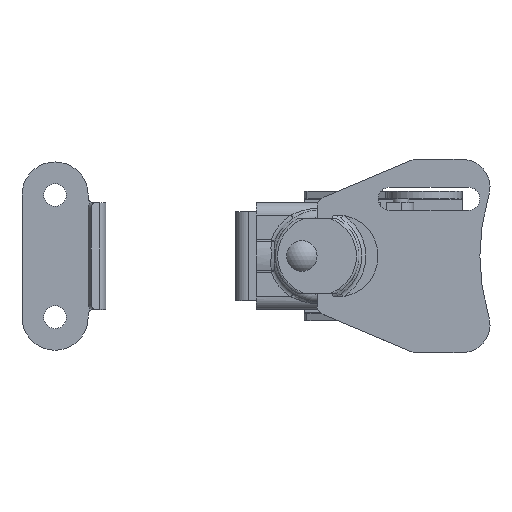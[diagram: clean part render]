
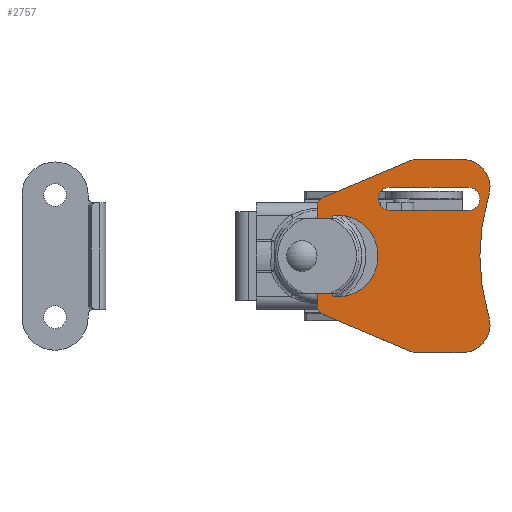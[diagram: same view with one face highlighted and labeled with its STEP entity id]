
A CAD part, top view. The second image highlights one B-rep face of the part: STEP entity #2757.
In plain terms, the highlighted planar face has unit normal (0, 0, 1).
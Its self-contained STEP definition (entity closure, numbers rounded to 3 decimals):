
#177=PLANE('',#3032);
#329=LINE('',#4992,#536);
#342=LINE('',#5044,#549);
#348=LINE('',#5059,#555);
#350=LINE('',#5065,#557);
#353=LINE('',#5076,#560);
#356=LINE('',#5083,#563);
#357=LINE('',#5086,#564);
#362=LINE('',#5101,#569);
#536=VECTOR('',#3633,15.085);
#549=VECTOR('',#3680,18.884);
#555=VECTOR('',#3696,18.884);
#557=VECTOR('',#3704,19.344);
#560=VECTOR('',#3717,15.5);
#563=VECTOR('',#3726,15.5);
#564=VECTOR('',#3729,9.096);
#569=VECTOR('',#3748,9.096);
#624=FACE_BOUND('',#958,.T.);
#625=FACE_BOUND('',#959,.T.);
#775=FACE_OUTER_BOUND('',#957,.T.);
#957=EDGE_LOOP('',(#2406,#2407,#2408,#2409,#2410,#2411,#2412,#2413,#2414,
#2415,#2416,#2417));
#958=EDGE_LOOP('',(#2418,#2419,#2420,#2421));
#959=EDGE_LOOP('',(#2422,#2423,#2424,#2425));
#1094=CIRCLE('',#2988,0.5);
#1097=CIRCLE('',#2993,0.5);
#1099=CIRCLE('',#2996,2.);
#1109=CIRCLE('',#3009,2.);
#1110=CIRCLE('',#3011,2.);
#1111=CIRCLE('',#3014,2.);
#1112=CIRCLE('',#3017,8.056);
#1113=CIRCLE('',#3019,2.25);
#1114=CIRCLE('',#3022,2.25);
#1115=CIRCLE('',#3026,5.5);
#1116=CIRCLE('',#3028,41.062);
#1117=CIRCLE('',#3030,5.5);
#1312=VERTEX_POINT('',#4982);
#1313=VERTEX_POINT('',#4983);
#1316=VERTEX_POINT('',#4991);
#1319=VERTEX_POINT('',#4999);
#1322=VERTEX_POINT('',#5006);
#1323=VERTEX_POINT('',#5008);
#1338=VERTEX_POINT('',#5043);
#1339=VERTEX_POINT('',#5047);
#1340=VERTEX_POINT('',#5051);
#1341=VERTEX_POINT('',#5053);
#1342=VERTEX_POINT('',#5057);
#1343=VERTEX_POINT('',#5061);
#1344=VERTEX_POINT('',#5069);
#1345=VERTEX_POINT('',#5070);
#1346=VERTEX_POINT('',#5075);
#1347=VERTEX_POINT('',#5079);
#1348=VERTEX_POINT('',#5085);
#1349=VERTEX_POINT('',#5089);
#1350=VERTEX_POINT('',#5093);
#1351=VERTEX_POINT('',#5097);
#1660=EDGE_CURVE('',#1312,#1313,#1094,.T.);
#1664=EDGE_CURVE('',#1316,#1313,#329,.T.);
#1668=EDGE_CURVE('',#1316,#1319,#1097,.T.);
#1672=EDGE_CURVE('',#1322,#1323,#1099,.T.);
#1690=EDGE_CURVE('',#1323,#1338,#342,.T.);
#1692=EDGE_CURVE('',#1338,#1339,#1109,.T.);
#1695=EDGE_CURVE('',#1340,#1341,#1110,.T.);
#1698=EDGE_CURVE('',#1342,#1340,#348,.T.);
#1700=EDGE_CURVE('',#1343,#1342,#1111,.T.);
#1701=EDGE_CURVE('',#1339,#1343,#350,.T.);
#1702=EDGE_CURVE('',#1312,#1319,#1112,.T.);
#1703=EDGE_CURVE('',#1344,#1345,#1113,.T.);
#1706=EDGE_CURVE('',#1345,#1346,#353,.T.);
#1708=EDGE_CURVE('',#1346,#1347,#1114,.T.);
#1710=EDGE_CURVE('',#1347,#1344,#356,.T.);
#1711=EDGE_CURVE('',#1341,#1348,#357,.T.);
#1713=EDGE_CURVE('',#1348,#1349,#1115,.T.);
#1715=EDGE_CURVE('',#1349,#1350,#1116,.T.);
#1717=EDGE_CURVE('',#1350,#1351,#1117,.T.);
#1719=EDGE_CURVE('',#1351,#1322,#362,.T.);
#2406=ORIENTED_EDGE('',*,*,#1672,.F.);
#2407=ORIENTED_EDGE('',*,*,#1719,.F.);
#2408=ORIENTED_EDGE('',*,*,#1717,.F.);
#2409=ORIENTED_EDGE('',*,*,#1715,.F.);
#2410=ORIENTED_EDGE('',*,*,#1713,.F.);
#2411=ORIENTED_EDGE('',*,*,#1711,.F.);
#2412=ORIENTED_EDGE('',*,*,#1695,.F.);
#2413=ORIENTED_EDGE('',*,*,#1698,.F.);
#2414=ORIENTED_EDGE('',*,*,#1700,.F.);
#2415=ORIENTED_EDGE('',*,*,#1701,.F.);
#2416=ORIENTED_EDGE('',*,*,#1692,.F.);
#2417=ORIENTED_EDGE('',*,*,#1690,.F.);
#2418=ORIENTED_EDGE('',*,*,#1702,.T.);
#2419=ORIENTED_EDGE('',*,*,#1668,.F.);
#2420=ORIENTED_EDGE('',*,*,#1664,.T.);
#2421=ORIENTED_EDGE('',*,*,#1660,.F.);
#2422=ORIENTED_EDGE('',*,*,#1703,.T.);
#2423=ORIENTED_EDGE('',*,*,#1706,.T.);
#2424=ORIENTED_EDGE('',*,*,#1708,.T.);
#2425=ORIENTED_EDGE('',*,*,#1710,.T.);
#2757=ADVANCED_FACE('',(#775,#624,#625),#177,.T.);
#2988=AXIS2_PLACEMENT_3D('',#4984,#3625,#3626);
#2993=AXIS2_PLACEMENT_3D('',#5000,#3640,#3641);
#2996=AXIS2_PLACEMENT_3D('',#5009,#3648,#3649);
#3009=AXIS2_PLACEMENT_3D('',#5048,#3684,#3685);
#3011=AXIS2_PLACEMENT_3D('',#5054,#3690,#3691);
#3014=AXIS2_PLACEMENT_3D('',#5063,#3700,#3701);
#3017=AXIS2_PLACEMENT_3D('',#5067,#3707,#3708);
#3019=AXIS2_PLACEMENT_3D('',#5071,#3711,#3712);
#3022=AXIS2_PLACEMENT_3D('',#5080,#3721,#3722);
#3026=AXIS2_PLACEMENT_3D('',#5090,#3733,#3734);
#3028=AXIS2_PLACEMENT_3D('',#5094,#3738,#3739);
#3030=AXIS2_PLACEMENT_3D('',#5098,#3743,#3744);
#3032=AXIS2_PLACEMENT_3D('',#5102,#3749,#3750);
#3625=DIRECTION('center_axis',(0.,0.,1.));
#3626=DIRECTION('ref_axis',(0.686,0.728,0.));
#3633=DIRECTION('',(1.,0.,0.));
#3640=DIRECTION('center_axis',(0.,0.,1.));
#3641=DIRECTION('ref_axis',(-0.686,0.728,0.));
#3648=DIRECTION('center_axis',(0.,0.,-1.));
#3649=DIRECTION('ref_axis',(-0.98,0.198,0.));
#3680=DIRECTION('',(0.388,0.922,0.));
#3684=DIRECTION('center_axis',(0.,0.,-1.));
#3685=DIRECTION('ref_axis',(-0.553,0.833,0.));
#3690=DIRECTION('center_axis',(0.,0.,-1.));
#3691=DIRECTION('ref_axis',(0.98,0.198,0.));
#3696=DIRECTION('',(0.388,-0.922,0.));
#3700=DIRECTION('center_axis',(0.,0.,-1.));
#3701=DIRECTION('ref_axis',(0.553,0.833,0.));
#3704=DIRECTION('',(1.,0.,0.));
#3707=DIRECTION('center_axis',(0.,0.,-1.));
#3708=DIRECTION('ref_axis',(0.993,-0.117,0.));
#3711=DIRECTION('center_axis',(0.,0.,-1.));
#3712=DIRECTION('ref_axis',(1.,0.,0.));
#3717=DIRECTION('',(0.,-1.,0.));
#3721=DIRECTION('center_axis',(0.,0.,-1.));
#3722=DIRECTION('ref_axis',(-1.,0.,0.));
#3726=DIRECTION('',(0.,1.,0.));
#3729=DIRECTION('',(0.,-1.,0.));
#3733=DIRECTION('center_axis',(0.,0.,-1.));
#3734=DIRECTION('ref_axis',(0.29,0.957,0.));
#3738=DIRECTION('center_axis',(0.,0.,1.));
#3739=DIRECTION('ref_axis',(0.29,0.957,0.));
#3743=DIRECTION('center_axis',(0.,0.,-1.));
#3744=DIRECTION('ref_axis',(1.,0.,0.));
#3748=DIRECTION('',(0.,1.,0.));
#3749=DIRECTION('center_axis',(0.,0.,1.));
#3750=DIRECTION('ref_axis',(1.,0.,0.));
#4982=CARTESIAN_POINT('',(8.042,-3.471,1.));
#4983=CARTESIAN_POINT('',(7.542,-3.,1.));
#4984=CARTESIAN_POINT('Origin',(7.542,-3.5,1.));
#4991=CARTESIAN_POINT('',(-7.542,-3.,1.));
#4992=CARTESIAN_POINT('',(-4.,-3.,1.));
#4999=CARTESIAN_POINT('',(-8.042,-3.471,1.));
#5000=CARTESIAN_POINT('Origin',(-7.542,-3.5,1.));
#5006=CARTESIAN_POINT('',(-19.,-19.404,1.));
#5008=CARTESIAN_POINT('',(-18.843,-18.628,1.));
#5009=CARTESIAN_POINT('Origin',(-17.,-19.404,1.));
#5043=CARTESIAN_POINT('',(-11.515,-1.224,1.));
#5044=CARTESIAN_POINT('',(-19.,-19.,1.));
#5047=CARTESIAN_POINT('',(-9.672,0.,1.));
#5048=CARTESIAN_POINT('Origin',(-9.672,-2.,1.));
#5051=CARTESIAN_POINT('',(18.843,-18.628,1.));
#5053=CARTESIAN_POINT('',(19.,-19.404,1.));
#5054=CARTESIAN_POINT('Origin',(17.,-19.404,1.));
#5057=CARTESIAN_POINT('',(11.515,-1.224,1.));
#5059=CARTESIAN_POINT('',(11.,0.,1.));
#5061=CARTESIAN_POINT('',(9.672,0.,1.));
#5063=CARTESIAN_POINT('Origin',(9.672,-2.,1.));
#5065=CARTESIAN_POINT('',(-11.,0.,1.));
#5067=CARTESIAN_POINT('Origin',(0.,-3.944,1.));
#5069=CARTESIAN_POINT('',(9.,-14.25,1.));
#5070=CARTESIAN_POINT('',(13.5,-14.25,1.));
#5071=CARTESIAN_POINT('Origin',(11.25,-14.25,1.));
#5075=CARTESIAN_POINT('',(13.5,-29.75,1.));
#5076=CARTESIAN_POINT('',(13.5,-16.161,1.));
#5079=CARTESIAN_POINT('',(9.,-29.75,1.));
#5080=CARTESIAN_POINT('Origin',(11.25,-29.75,1.));
#5083=CARTESIAN_POINT('',(9.,-23.911,1.));
#5085=CARTESIAN_POINT('',(19.,-28.5,1.));
#5086=CARTESIAN_POINT('',(19.,-19.,1.));
#5089=CARTESIAN_POINT('',(11.905,-33.764,1.));
#5090=CARTESIAN_POINT('Origin',(13.5,-28.5,1.));
#5093=CARTESIAN_POINT('',(-11.905,-33.764,1.));
#5094=CARTESIAN_POINT('Origin',(0.,-73.062,
1.));
#5097=CARTESIAN_POINT('',(-19.,-28.5,1.));
#5098=CARTESIAN_POINT('Origin',(-13.5,-28.5,1.));
#5101=CARTESIAN_POINT('',(-19.,-28.5,1.));
#5102=CARTESIAN_POINT('Origin',(0.,-18.072,
1.));
